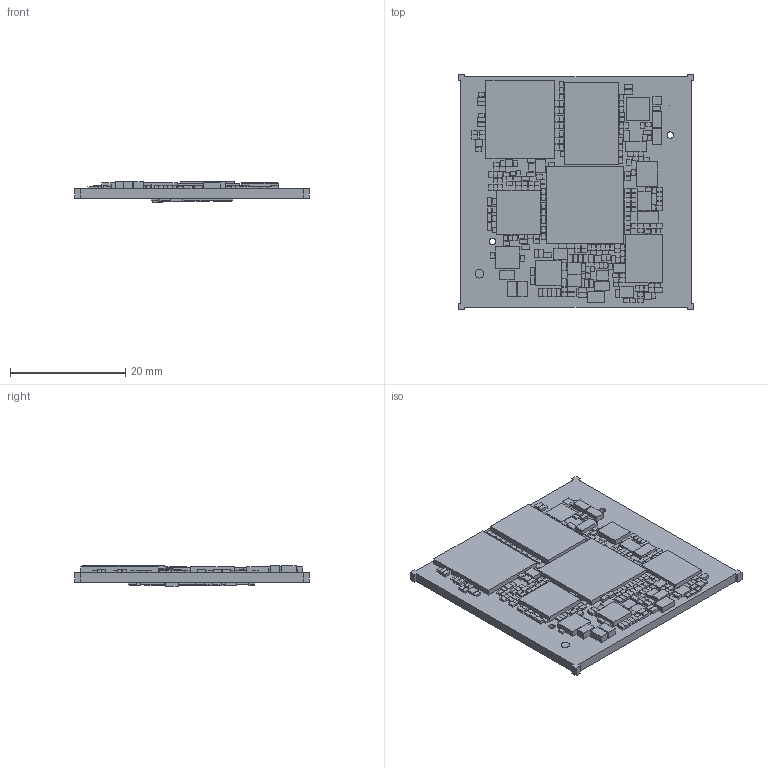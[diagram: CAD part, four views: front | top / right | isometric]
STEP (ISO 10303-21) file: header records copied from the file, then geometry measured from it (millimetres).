
FILE_DESCRIPTION (( 'STEP AP214' ), '1' );
FILE_NAME ('PCL-071_1581-1_Basic.STEP', '2023-10-26T23:34:00', ( '' ), ( '' ), 'SwSTEP 2.0', 'SolidWorks 2022', '' );
FILE_SCHEMA (( 'AUTOMOTIVE_DESIGN' ));
Length unit declared in the file: millimetre
Products named in the file (498): _C230_; _Q6_; _R203_; _R62_; _R17_; _C164_; _R228_; _C102_; _U20_; _C72_; _R61_; _L7_; _R164_; _R219_; _Z2_; _C121_; _C282_; _R147_; _R169_; _R93_; _C186_; _R176_; _R221_; _L11_; _R129_; _Z5_; _C74_; _R70_; _C279_; _C88_; _R29_; _C153_; _C24_; _C59_; _R101_; _R167_; _C184_; _R100_; _R12_; _R25_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
Assembly tree (497 placements, depth 2):
  PCL-071_1581-1_Basic
    Board_outline
    _C100_
    _C106_
    _C108_
    _C109_
    _C110_
    _C102_
    _C107_
    _C101_
    _C103_
    _C104_
    _C105_
    _C1_
    _C120_
    _C114_
    _C122_
    _C119_
    _C113_
    _C118_
    _C123_
    _C111_
    _C115_
    _C116_
    _C117_
    _C112_
    _C121_
    _C153_
    _C136_
    _C162_
    _C166_
    _C133_
    _C163_
    _C155_
    _C157_
    _C158_
    _C169_
    _C145_
    _C128_
    _C174_
    _C177_
    _C127_
    _C154_
    _C179_
    _C134_
    _C180_
    _C182_
    _C135_
    _C126_
    _C183_
    _C164_
    _C165_
    _C168_
    _C151_
    _C17_
    _C178_
    _C131_
    _C156_
    _C173_
    _C184_
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Bounding box: 40.8 x 40.8 x 3.63 mm (x, y, z)
Volume: 3473.9 mm3; surface area: 6865.8 mm2
Topology: 497 solids, 497 shells, 2956 faces, 5886 edges, 3924 vertices
Faces by surface type: plane 2906, cylinder 50
Entity records: 129204 total; most frequent: CARTESIAN_POINT 13266, DIRECTION 12898, ORIENTED_EDGE 11772, EDGE_CURVE 5886, LINE 5786, VECTOR 5786, UNCERTAINTY_MEASURE_WITH_UNIT 4448, SURFACE_STYLE_USAGE 3950
